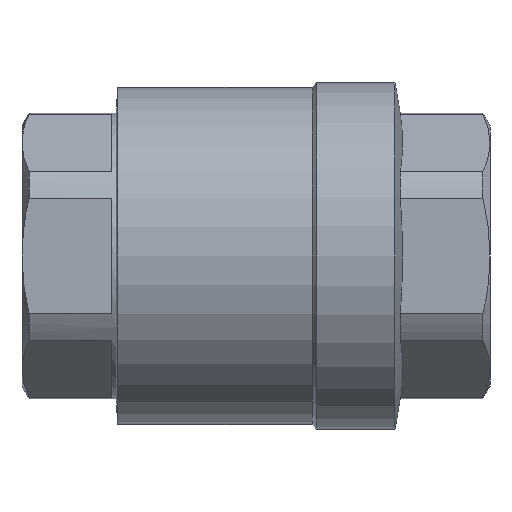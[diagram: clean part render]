
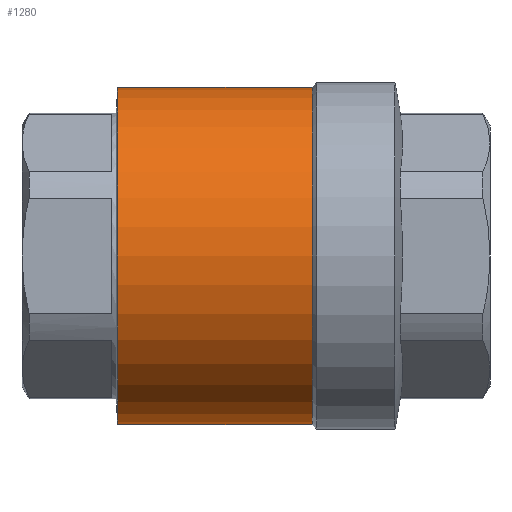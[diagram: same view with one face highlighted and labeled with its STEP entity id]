
A CAD part, front view. The second image highlights one B-rep face of the part: STEP entity #1280.
In plain terms, the highlighted cylindrical face has radius 55.5 mm (diameter 111 mm), a partial arc.
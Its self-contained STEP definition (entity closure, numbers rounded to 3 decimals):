
#23 = CIRCLE ( 'NONE', #1741, 55.5 ) ;
#50 = EDGE_CURVE ( 'NONE', #1494, #2115, #2302, .T. ) ;
#75 = VECTOR ( 'NONE', #2181, 1000. ) ;
#370 = AXIS2_PLACEMENT_3D ( 'NONE', #3249, #910, #1578 ) ;
#905 = EDGE_CURVE ( 'NONE', #1329, #2213, #1201, .T. ) ;
#906 = CARTESIAN_POINT ( 'NONE',  ( -55.019, 0., -55.5 ) ) ;
#910 = DIRECTION ( 'NONE',  ( -1., 0., 0. ) ) ;
#934 = ORIENTED_EDGE ( 'NONE', *, *, #3572, .F. ) ;
#945 = ORIENTED_EDGE ( 'NONE', *, *, #3655, .T. ) ;
#995 = ORIENTED_EDGE ( 'NONE', *, *, #50, .T. ) ;
#1030 = CARTESIAN_POINT ( 'NONE',  ( -45.5, 0., 0. ) ) ;
#1064 = DIRECTION ( 'NONE',  ( -1., 0., 0. ) ) ;
#1102 = CARTESIAN_POINT ( 'NONE',  ( 18.5, 0., 55.5 ) ) ;
#1201 = LINE ( 'NONE', #906, #2577 ) ;
#1280 = ADVANCED_FACE ( 'NONE', ( #1607 ), #2286, .T. ) ;
#1325 = DIRECTION ( 'NONE',  ( 0., 0., 1. ) ) ;
#1329 = VERTEX_POINT ( 'NONE', #2769 ) ;
#1494 = VERTEX_POINT ( 'NONE', #1102 ) ;
#1578 = DIRECTION ( 'NONE',  ( 0., 0., 1. ) ) ;
#1607 = FACE_OUTER_BOUND ( 'NONE', #3127, .T. ) ;
#1741 = AXIS2_PLACEMENT_3D ( 'NONE', #1030, #3065, #1325 ) ;
#2085 = CARTESIAN_POINT ( 'NONE',  ( -45.5, 0., -55.5 ) ) ;
#2115 = VERTEX_POINT ( 'NONE', #2549 ) ;
#2181 = DIRECTION ( 'NONE',  ( -1., 0., 0. ) ) ;
#2213 = VERTEX_POINT ( 'NONE', #2085 ) ;
#2286 = CYLINDRICAL_SURFACE ( 'NONE', #370, 55.5 ) ;
#2302 = LINE ( 'NONE', #3050, #75 ) ;
#2549 = CARTESIAN_POINT ( 'NONE',  ( -45.5, 0., 55.5 ) ) ;
#2577 = VECTOR ( 'NONE', #2952, 1000. ) ;
#2761 = CIRCLE ( 'NONE', #3123, 55.5 ) ;
#2769 = CARTESIAN_POINT ( 'NONE',  ( 18.5, 0., -55.5 ) ) ;
#2810 = CARTESIAN_POINT ( 'NONE',  ( 18.5, 0., 0. ) ) ;
#2952 = DIRECTION ( 'NONE',  ( -1., 0., 0. ) ) ;
#3050 = CARTESIAN_POINT ( 'NONE',  ( -55.019, 0., 55.5 ) ) ;
#3065 = DIRECTION ( 'NONE',  ( -1., 0., 0. ) ) ;
#3108 = DIRECTION ( 'NONE',  ( 0., 0., 1. ) ) ;
#3123 = AXIS2_PLACEMENT_3D ( 'NONE', #2810, #1064, #3108 ) ;
#3127 = EDGE_LOOP ( 'NONE', ( #3367, #945, #995, #934 ) ) ;
#3249 = CARTESIAN_POINT ( 'NONE',  ( -55.019, 0., 0. ) ) ;
#3367 = ORIENTED_EDGE ( 'NONE', *, *, #905, .F. ) ;
#3572 = EDGE_CURVE ( 'NONE', #2213, #2115, #23, .T. ) ;
#3655 = EDGE_CURVE ( 'NONE', #1329, #1494, #2761, .T. ) ;
